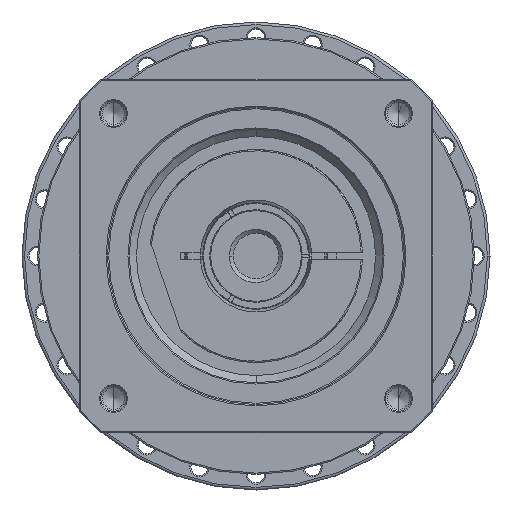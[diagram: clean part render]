
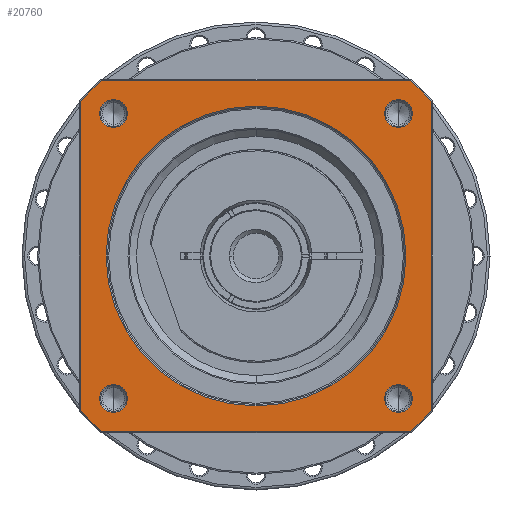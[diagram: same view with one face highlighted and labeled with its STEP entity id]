
A CAD part, left-side view. The second image highlights one B-rep face of the part: STEP entity #20760.
In plain terms, the highlighted planar face has unit normal (-1, 0, 0) as drawn and (0, 0, 1) by its records, which use the part's own axes.
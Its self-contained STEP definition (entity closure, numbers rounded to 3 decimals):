
#19491=DIRECTION('',(1.,0.,0.));
#19492=VECTOR('',#19491,119.059);
#19493=CARTESIAN_POINT('',(-59.529,-67.5,41.));
#19494=LINE('',#19493,#19492);
#19504=CARTESIAN_POINT('',(0.,0.,
41.));
#19505=DIRECTION('',(0.,0.,-1.));
#19506=DIRECTION('',(0.,-1.,0.));
#19507=AXIS2_PLACEMENT_3D('',#19504,#19505,#19506);
#19509=CARTESIAN_POINT('',(0.,0.,
41.));
#19510=DIRECTION('',(0.,0.,-1.));
#19511=DIRECTION('',(0.,1.,0.));
#19512=AXIS2_PLACEMENT_3D('',#19509,#19510,#19511);
#19514=CARTESIAN_POINT('',(0.,0.,41.));
#19515=DIRECTION('',(0.,0.,1.));
#19516=DIRECTION('',(-0.75,-0.661,0.));
#19517=AXIS2_PLACEMENT_3D('',#19514,#19515,#19516);
#19529=DIRECTION('',(0.,-1.,0.));
#19530=VECTOR('',#19529,119.059);
#19531=CARTESIAN_POINT('',(-67.5,59.529,41.));
#19532=LINE('',#19531,#19530);
#19542=CARTESIAN_POINT('',(0.,0.,41.));
#19543=DIRECTION('',(0.,0.,1.));
#19544=DIRECTION('',(-0.661,0.75,0.));
#19545=AXIS2_PLACEMENT_3D('',#19542,#19543,#19544);
#19570=DIRECTION('',(-1.,0.,0.));
#19571=VECTOR('',#19570,119.059);
#19572=CARTESIAN_POINT('',(59.529,67.5,41.));
#19573=LINE('',#19572,#19571);
#19578=CARTESIAN_POINT('',(0.,0.,41.));
#19579=DIRECTION('',(0.,0.,1.));
#19580=DIRECTION('',(0.75,0.661,0.));
#19581=AXIS2_PLACEMENT_3D('',#19578,#19579,#19580);
#19593=DIRECTION('',(0.,1.,0.));
#19594=VECTOR('',#19593,119.059);
#19595=CARTESIAN_POINT('',(67.5,-59.529,41.));
#19596=LINE('',#19595,#19594);
#19698=CARTESIAN_POINT('',(0.,0.,41.));
#19699=DIRECTION('',(0.,0.,1.));
#19700=DIRECTION('',(0.661,-0.75,0.));
#19701=AXIS2_PLACEMENT_3D('',#19698,#19699,#19700);
#19977=CARTESIAN_POINT('',(-54.801,54.801,41.));
#19978=DIRECTION('',(0.,0.,1.));
#19979=DIRECTION('',(-1.,0.,0.));
#19980=AXIS2_PLACEMENT_3D('',#19977,#19978,#19979);
#19995=CARTESIAN_POINT('',(-54.801,54.801,41.));
#19996=DIRECTION('',(0.,0.,1.));
#19997=DIRECTION('',(1.,0.,0.));
#19998=AXIS2_PLACEMENT_3D('',#19995,#19996,#19997);
#20031=CARTESIAN_POINT('',(54.801,54.801,41.));
#20032=DIRECTION('',(0.,0.,1.));
#20033=DIRECTION('',(-1.,0.,0.));
#20034=AXIS2_PLACEMENT_3D('',#20031,#20032,#20033);
#20049=CARTESIAN_POINT('',(54.801,54.801,41.));
#20050=DIRECTION('',(0.,0.,1.));
#20051=DIRECTION('',(1.,0.,0.));
#20052=AXIS2_PLACEMENT_3D('',#20049,#20050,#20051);
#20085=CARTESIAN_POINT('',(54.801,-54.801,41.));
#20086=DIRECTION('',(0.,0.,1.));
#20087=DIRECTION('',(-1.,0.,0.));
#20088=AXIS2_PLACEMENT_3D('',#20085,#20086,#20087);
#20103=CARTESIAN_POINT('',(54.801,-54.801,41.));
#20104=DIRECTION('',(0.,0.,1.));
#20105=DIRECTION('',(1.,0.,0.));
#20106=AXIS2_PLACEMENT_3D('',#20103,#20104,#20105);
#20139=CARTESIAN_POINT('',(-54.801,-54.801,41.));
#20140=DIRECTION('',(0.,0.,1.));
#20141=DIRECTION('',(-1.,0.,0.));
#20142=AXIS2_PLACEMENT_3D('',#20139,#20140,#20141);
#20157=CARTESIAN_POINT('',(-54.801,-54.801,41.));
#20158=DIRECTION('',(0.,0.,1.));
#20159=DIRECTION('',(1.,0.,0.));
#20160=AXIS2_PLACEMENT_3D('',#20157,#20158,#20159);
#20201=CARTESIAN_POINT('',(67.5,-59.529,41.));
#20202=CARTESIAN_POINT('',(67.5,59.529,41.));
#20203=VERTEX_POINT('',#20201);
#20204=VERTEX_POINT('',#20202);
#20209=CARTESIAN_POINT('',(59.529,-67.5,41.));
#20210=VERTEX_POINT('',#20209);
#20213=CARTESIAN_POINT('',(-59.529,-67.5,41.));
#20214=VERTEX_POINT('',#20213);
#20217=CARTESIAN_POINT('',(-67.5,-59.529,41.));
#20218=VERTEX_POINT('',#20217);
#20221=CARTESIAN_POINT('',(-67.5,59.529,41.));
#20222=VERTEX_POINT('',#20221);
#20225=CARTESIAN_POINT('',(-59.529,67.5,41.));
#20226=VERTEX_POINT('',#20225);
#20229=CARTESIAN_POINT('',(59.529,67.5,41.));
#20230=VERTEX_POINT('',#20229);
#20279=CARTESIAN_POINT('',(-60.151,54.801,41.));
#20280=CARTESIAN_POINT('',(-49.451,54.801,41.));
#20281=VERTEX_POINT('',#20279);
#20282=VERTEX_POINT('',#20280);
#20313=CARTESIAN_POINT('',(60.151,54.801,41.));
#20314=CARTESIAN_POINT('',(49.451,54.801,41.));
#20315=VERTEX_POINT('',#20313);
#20316=VERTEX_POINT('',#20314);
#20321=CARTESIAN_POINT('',(60.151,-54.801,41.));
#20322=CARTESIAN_POINT('',(49.451,-54.801,41.));
#20323=VERTEX_POINT('',#20321);
#20324=VERTEX_POINT('',#20322);
#20329=CARTESIAN_POINT('',(-49.451,-54.801,41.));
#20330=CARTESIAN_POINT('',(-60.151,-54.801,41.));
#20331=VERTEX_POINT('',#20329);
#20332=VERTEX_POINT('',#20330);
#20337=CARTESIAN_POINT('',(0.,-57.65,41.));
#20338=CARTESIAN_POINT('',(0.,57.65,
41.));
#20339=VERTEX_POINT('',#20337);
#20340=VERTEX_POINT('',#20338);
#20708=CARTESIAN_POINT('',(0.,0.,41.));
#20709=DIRECTION('',(0.,0.,1.));
#20710=DIRECTION('',(1.,0.,0.));
#20711=AXIS2_PLACEMENT_3D('',#20708,#20709,#20710);
#20712=PLANE('',#20711);
#20714=ORIENTED_EDGE('',*,*,#20713,.F.);
#20716=ORIENTED_EDGE('',*,*,#20715,.F.);
#20718=ORIENTED_EDGE('',*,*,#20717,.F.);
#20720=ORIENTED_EDGE('',*,*,#20719,.F.);
#20722=ORIENTED_EDGE('',*,*,#20721,.F.);
#20724=ORIENTED_EDGE('',*,*,#20723,.F.);
#20726=ORIENTED_EDGE('',*,*,#20725,.F.);
#20727=ORIENTED_EDGE('',*,*,#20698,.F.);
#20728=EDGE_LOOP('',(#20714,#20716,#20718,#20720,#20722,#20724,#20726,#20727));
#20729=FACE_OUTER_BOUND('',#20728,.F.);
#20731=ORIENTED_EDGE('',*,*,#20730,.F.);
#20733=ORIENTED_EDGE('',*,*,#20732,.F.);
#20734=EDGE_LOOP('',(#20731,#20733));
#20735=FACE_BOUND('',#20734,.F.);
#20737=ORIENTED_EDGE('',*,*,#20736,.T.);
#20739=ORIENTED_EDGE('',*,*,#20738,.T.);
#20740=EDGE_LOOP('',(#20737,#20739));
#20741=FACE_BOUND('',#20740,.F.);
#20743=ORIENTED_EDGE('',*,*,#20742,.T.);
#20745=ORIENTED_EDGE('',*,*,#20744,.T.);
#20746=EDGE_LOOP('',(#20743,#20745));
#20747=FACE_BOUND('',#20746,.F.);
#20749=ORIENTED_EDGE('',*,*,#20748,.T.);
#20751=ORIENTED_EDGE('',*,*,#20750,.T.);
#20752=EDGE_LOOP('',(#20749,#20751));
#20753=FACE_BOUND('',#20752,.F.);
#20755=ORIENTED_EDGE('',*,*,#20754,.T.);
#20757=ORIENTED_EDGE('',*,*,#20756,.T.);
#20758=EDGE_LOOP('',(#20755,#20757));
#20759=FACE_BOUND('',#20758,.F.);
#20760=ADVANCED_FACE('',(#20729,#20735,#20741,#20747,#20753,#20759),#20712,.T.);
#19508=CIRCLE('',#19507,57.65);
#19513=CIRCLE('',#19512,57.65);
#19518=CIRCLE('',#19517,90.);
#19546=CIRCLE('',#19545,90.);
#19582=CIRCLE('',#19581,90.);
#19702=CIRCLE('',#19701,90.);
#19981=CIRCLE('',#19980,5.35);
#19999=CIRCLE('',#19998,5.35);
#20035=CIRCLE('',#20034,5.35);
#20053=CIRCLE('',#20052,5.35);
#20089=CIRCLE('',#20088,5.35);
#20107=CIRCLE('',#20106,5.35);
#20143=CIRCLE('',#20142,5.35);
#20161=CIRCLE('',#20160,5.35);
#20698=EDGE_CURVE('',#20214,#20210,#19494,.T.);
#20713=EDGE_CURVE('',#20218,#20214,#19518,.T.);
#20715=EDGE_CURVE('',#20222,#20218,#19532,.T.);
#20717=EDGE_CURVE('',#20226,#20222,#19546,.T.);
#20719=EDGE_CURVE('',#20230,#20226,#19573,.T.);
#20721=EDGE_CURVE('',#20204,#20230,#19582,.T.);
#20723=EDGE_CURVE('',#20203,#20204,#19596,.T.);
#20725=EDGE_CURVE('',#20210,#20203,#19702,.T.);
#20730=EDGE_CURVE('',#20339,#20340,#19508,.T.);
#20732=EDGE_CURVE('',#20340,#20339,#19513,.T.);
#20736=EDGE_CURVE('',#20281,#20282,#19981,.T.);
#20738=EDGE_CURVE('',#20282,#20281,#19999,.T.);
#20742=EDGE_CURVE('',#20316,#20315,#20035,.T.);
#20744=EDGE_CURVE('',#20315,#20316,#20053,.T.);
#20748=EDGE_CURVE('',#20324,#20323,#20089,.T.);
#20750=EDGE_CURVE('',#20323,#20324,#20107,.T.);
#20754=EDGE_CURVE('',#20332,#20331,#20143,.T.);
#20756=EDGE_CURVE('',#20331,#20332,#20161,.T.);
